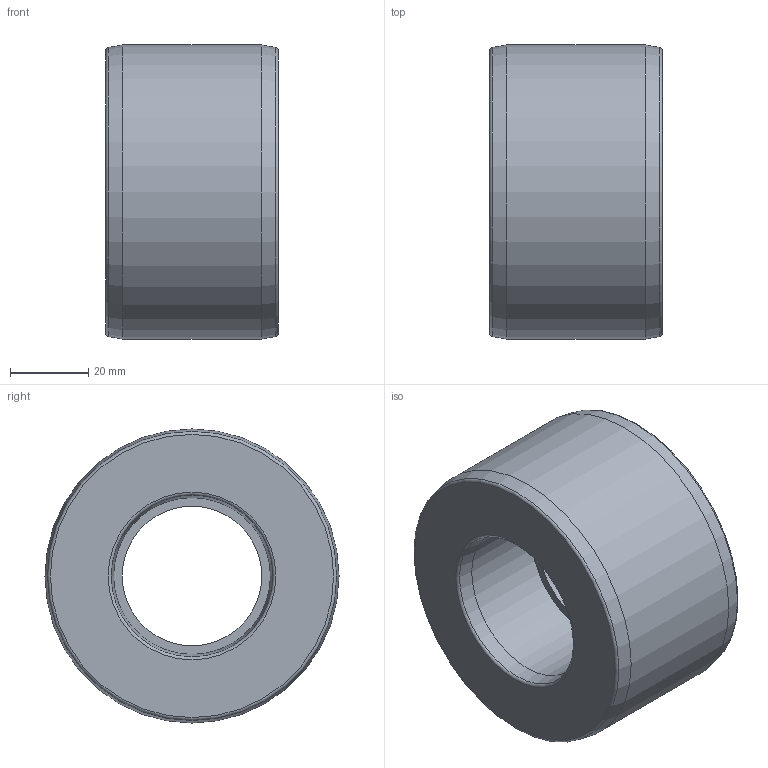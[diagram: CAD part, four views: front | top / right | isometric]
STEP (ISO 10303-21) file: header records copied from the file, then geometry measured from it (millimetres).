
FILE_DESCRIPTION(/* description */ ('PLASSON BUSHING-CEMENT PVC 75-40'),/* implementation_level */ '2;1');
FILE_NAME(/* name */ 'C:\Dropbox\KIMPROJECTS-Inventor\99-16-3568-Processing\PVC Catalog 2017\050900\050900075040.ipt.stp',/* time_stamp */ '2017-12-07T15:59:27+02:00',/* author */ ('KIM'),/* organization */ (''),/* preprocessor_version */ 'ST-DEVELOPER v15.6',/* originating_system */ 'Autodesk Inventor 2015',/* authorisation */ '');
FILE_SCHEMA (('AUTOMOTIVE_DESIGN { 1 0 10303 214 3 1 1 }'));
Length unit declared in the file: millimetre
Products named in the file (1): 050900075040
Bounding box: 44 x 75 x 75 mm (x, y, z)
Volume: 135479.4 mm3; surface area: 21487.5 mm2
Topology: 1 solids, 1 shells, 15 faces, 27 edges, 15 vertices
Faces by surface type: torus 5, cone 4, cylinder 3, plane 3
Full cylindrical faces by diameter (mm): 35.6 x1, 40 x1, 75 x1
Entity records: 332 total; most frequent: DIRECTION 62, CARTESIAN_POINT 46, AXIS2_PLACEMENT_3D 31, EDGE_LOOP 30, ORIENTED_EDGE 30, FACE_BOUND 15, FACE_OUTER_BOUND 15, CIRCLE 15
